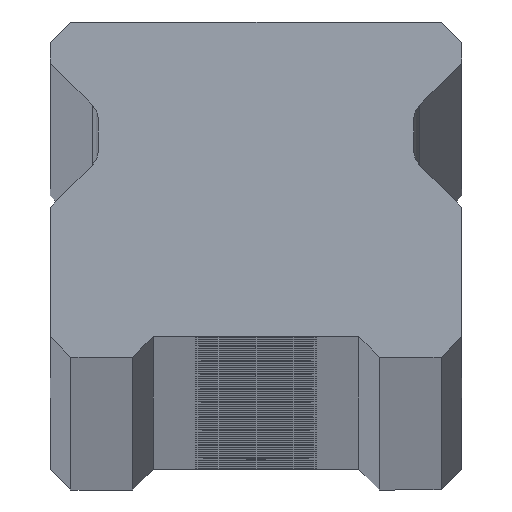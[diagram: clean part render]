
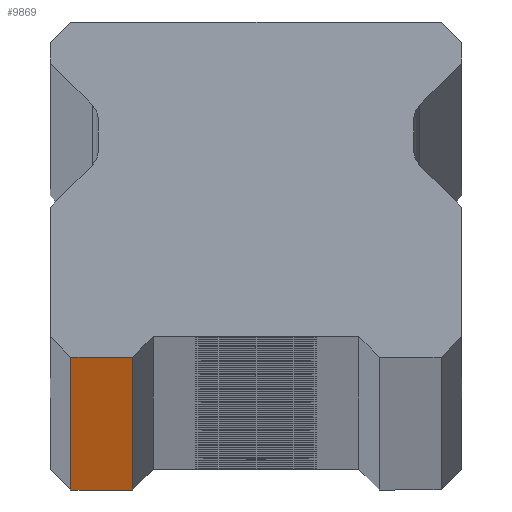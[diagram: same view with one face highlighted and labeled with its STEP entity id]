
A CAD part, top view. The second image highlights one B-rep face of the part: STEP entity #9869.
In plain terms, the highlighted planar face has unit normal (0, -1, 0).
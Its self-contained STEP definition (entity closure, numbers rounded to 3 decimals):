
#143 = LINE ( 'NONE', #7540, #8456 ) ;
#439 = LINE ( 'NONE', #1269, #7514 ) ;
#1068 = EDGE_CURVE ( 'NONE', #8939, #5701, #143, .T. ) ;
#1269 = CARTESIAN_POINT ( 'NONE',  ( 10., 0., -1850. ) ) ;
#1478 = CARTESIAN_POINT ( 'NONE',  ( 10., 0., 1850. ) ) ;
#1483 = VECTOR ( 'NONE', #4937, 1000. ) ;
#2390 = AXIS2_PLACEMENT_3D ( 'NONE', #1478, #9469, #6347 ) ;
#2439 = CARTESIAN_POINT ( 'NONE',  ( -6., 0., -1850. ) ) ;
#2610 = CARTESIAN_POINT ( 'NONE',  ( -9., 0., 1850. ) ) ;
#2705 = DIRECTION ( 'NONE',  ( 0., 0., -1. ) ) ;
#2880 = VERTEX_POINT ( 'NONE', #2439 ) ;
#3223 = ORIENTED_EDGE ( 'NONE', *, *, #1068, .T. ) ;
#3748 = LINE ( 'NONE', #5467, #5510 ) ;
#4410 = CARTESIAN_POINT ( 'NONE',  ( -6., 0., 1850. ) ) ;
#4937 = DIRECTION ( 'NONE',  ( 1., 0., 0. ) ) ;
#5404 = ORIENTED_EDGE ( 'NONE', *, *, #7795, .T. ) ;
#5467 = CARTESIAN_POINT ( 'NONE',  ( -6., 0., -1850. ) ) ;
#5510 = VECTOR ( 'NONE', #7935, 1000. ) ;
#5539 = ORIENTED_EDGE ( 'NONE', *, *, #6392, .F. ) ;
#5701 = VERTEX_POINT ( 'NONE', #8759 ) ;
#6347 = DIRECTION ( 'NONE',  ( -1., 0., 0. ) ) ;
#6388 = PLANE ( 'NONE',  #2390 ) ;
#6392 = EDGE_CURVE ( 'NONE', #8939, #8780, #10432, .T. ) ;
#6927 = DIRECTION ( 'NONE',  ( 1., 0., 0. ) ) ;
#7514 = VECTOR ( 'NONE', #6927, 1000. ) ;
#7540 = CARTESIAN_POINT ( 'NONE',  ( -9., 0., 1850. ) ) ;
#7556 = EDGE_LOOP ( 'NONE', ( #8855, #5404, #5539, #3223 ) ) ;
#7795 = EDGE_CURVE ( 'NONE', #2880, #8780, #3748, .T. ) ;
#7905 = EDGE_CURVE ( 'NONE', #5701, #2880, #439, .T. ) ;
#7935 = DIRECTION ( 'NONE',  ( 0., 0., 1. ) ) ;
#8177 = CARTESIAN_POINT ( 'NONE',  ( 10., 0., 1850. ) ) ;
#8456 = VECTOR ( 'NONE', #2705, 1000. ) ;
#8759 = CARTESIAN_POINT ( 'NONE',  ( -9., 0., -1850. ) ) ;
#8780 = VERTEX_POINT ( 'NONE', #4410 ) ;
#8855 = ORIENTED_EDGE ( 'NONE', *, *, #7905, .T. ) ;
#8939 = VERTEX_POINT ( 'NONE', #2610 ) ;
#9469 = DIRECTION ( 'NONE',  ( 0., 1., 0. ) ) ;
#9869 = ADVANCED_FACE ( 'NONE', ( #10367 ), #6388, .F. ) ;
#10367 = FACE_OUTER_BOUND ( 'NONE', #7556, .T. ) ;
#10432 = LINE ( 'NONE', #8177, #1483 ) ;
